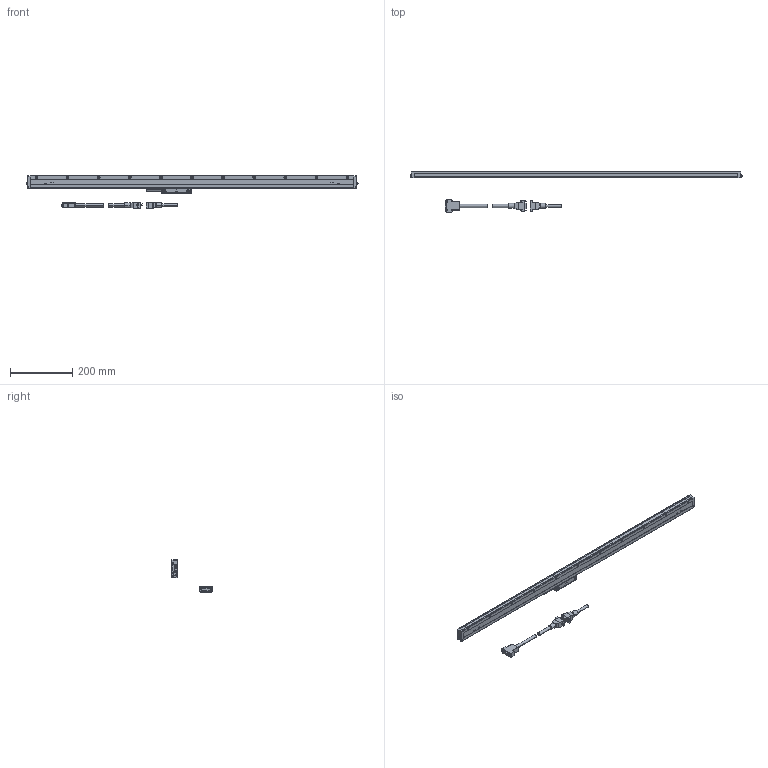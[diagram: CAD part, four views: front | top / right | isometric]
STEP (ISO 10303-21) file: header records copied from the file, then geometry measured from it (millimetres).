
FILE_DESCRIPTION(('Creo Elements/Direct Modeling STEP Export'),'2;1');
FILE_NAME('AT211-900A.stp','2018-03-15T10:19:38',(''),(''),'Creo Elements/Direct Modeling STEP processor for AP214 (Solid Model)','Creo Elements/Direct Modeling 18.1B 29-Sep-2012 (C) Parametric Technology GmbH','');
FILE_SCHEMA(('AUTOMOTIVE_DESIGN { 1 0 10303 214 1 1 1 1 }'));
Length unit declared in the file: millimetre
Products named in the file (7): Head_Cable; SignalCable; D-sub15; Cable; AT211_Scale_900; Detector_Head; AT211-900A
Assembly tree (6 placements, depth 3):
  AT211-900A
    Detector_Head
    AT211_Scale_900
    Cable
      D-sub15
      SignalCable
      Head_Cable
Bounding box: 1067.12 x 130.6 x 105 mm (x, y, z)
Volume: 908192.1 mm3; surface area: 177127.5 mm2
Topology: 5 solids, 5 shells, 1091 faces, 2645 edges, 1571 vertices
Faces by surface type: plane 521, cylinder 366, sphere 74, cone 48, torus 38, extrusion 32, revolution 8, bspline 4
Entity records: 35374 total; most frequent: CARTESIAN_POINT 9094, ORIENTED_EDGE 5142, DIRECTION 4856, EDGE_CURVE 2571, AXIS2_PLACEMENT_3D 1715, VERTEX_POINT 1571, VECTOR 1414, LINE 1402
